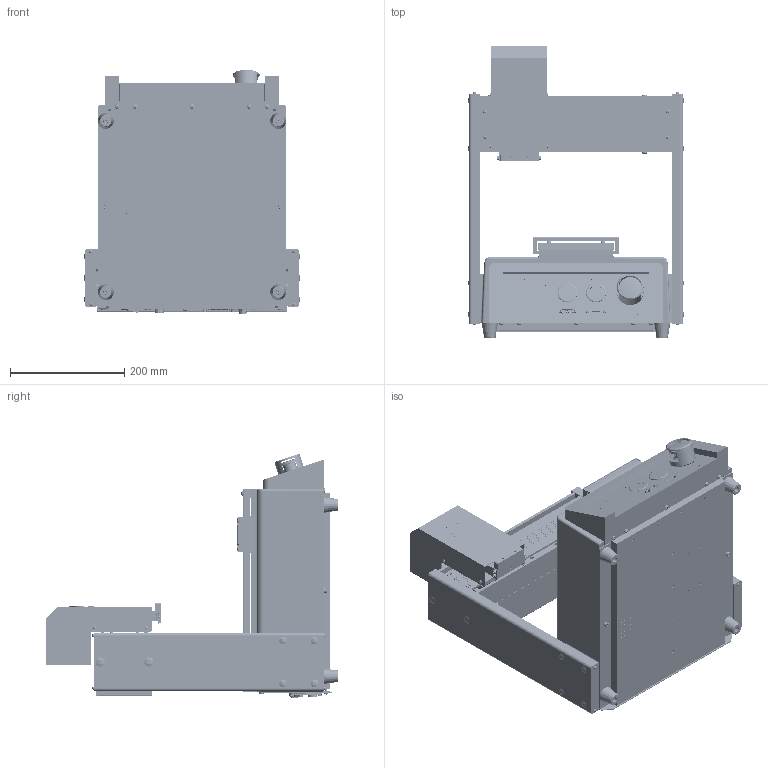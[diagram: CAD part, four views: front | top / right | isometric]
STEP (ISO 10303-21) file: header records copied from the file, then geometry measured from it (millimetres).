
FILE_DESCRIPTION(('FreeCAD Model'),'2;1');
FILE_NAME('C:/Users/martin.stroffek/Desktop/robots/E/NORDSONEFD-7361345 ROBOT E2TP 3 AXIS 200X200X50MM.STEP','2020-02-01T16:59:42',('Author'),(''), 'Open CASCADE STEP processor 7.2','FreeCAD','Unknown');
FILE_SCHEMA(('AUTOMOTIVE_DESIGN { 1 0 10303 214 1 1 1 1 }'));
Length unit declared in the file: millimetre
Products named in the file (5): NORDSONEFD_7361345__ROBOT_E2TP_3_AXIS_200X200X50MM; NORDSONEFD-7361345__ROBOT_E2TP_3_AXIS_200X200X50MM_E2-Base; NORDSONEFD-7361345__ROBOT_E2TP_3_AXIS_200X200X50MM_E2-Fixture_plate; NORDSONEFD-7361345__ROBOT_E2TP_3_AXIS_200X200X50MM_E2-Z_head; NORDSONEFD-7361345__ROBOT_E2TP_3_AXIS_200X200X50MM_E2-X_carriage
Assembly tree (4 placements, depth 2):
  NORDSONEFD_7361345__ROBOT_E2TP_3_AXIS_200X200X50MM
    NORDSONEFD-7361345__ROBOT_E2TP_3_AXIS_200X200X50MM_E2-Base
    NORDSONEFD-7361345__ROBOT_E2TP_3_AXIS_200X200X50MM_E2-Fixture_plate
    NORDSONEFD-7361345__ROBOT_E2TP_3_AXIS_200X200X50MM_E2-Z_head
    NORDSONEFD-7361345__ROBOT_E2TP_3_AXIS_200X200X50MM_E2-X_carriage
Bounding box: 377.46 x 510.25 x 427.47 mm (x, y, z)
Volume: 4214270.8 mm3; surface area: 2267179.7 mm2
Topology: 4 solids, 4 shells, 8176 faces, 22024 edges, 14287 vertices
Faces by surface type: plane 3883, cylinder 1794, bspline 1556, cone 879, sphere 39, revolution 14, torus 11
Entity records: 789975 total; most frequent: CARTESIAN_POINT 329668, DIRECTION 65291, ORIENTED_EDGE 43554, PCURVE 43554, DEFINITIONAL_REPRESENTATION 43554, LINE 39040, VECTOR 39040, EDGE_CURVE 21777
